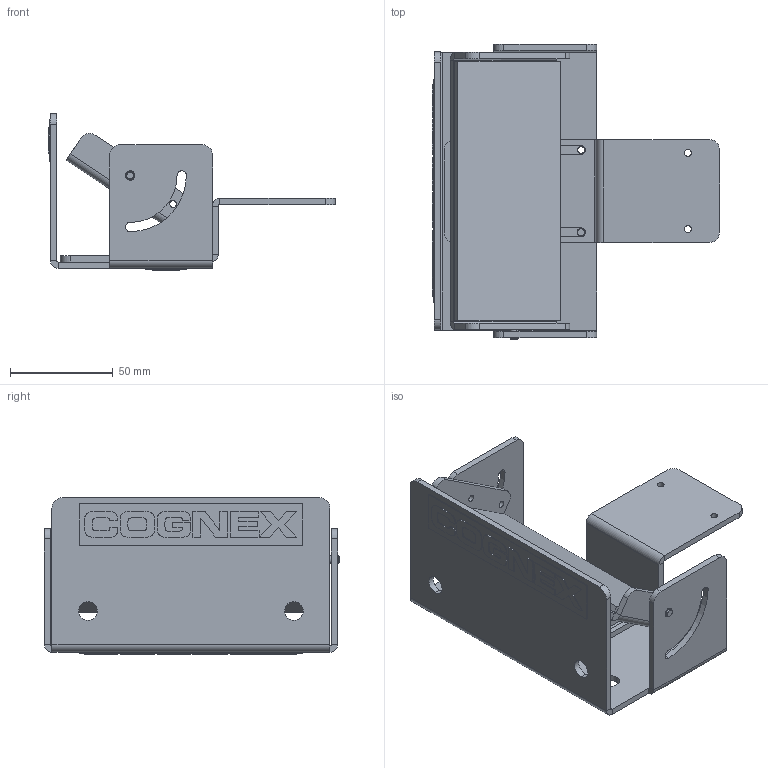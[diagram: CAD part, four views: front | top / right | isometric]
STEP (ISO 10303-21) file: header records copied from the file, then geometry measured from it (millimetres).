
FILE_DESCRIPTION (( 'STEP AP214' ), '1' );
FILE_NAME ('820-10135-1R.STEP', '2025-08-04T18:19:04', ( '' ), ( '' ), 'SwSTEP 2.0', 'SolidWorks 2025', '' );
FILE_SCHEMA (( 'AUTOMOTIVE_DESIGN' ));
Length unit declared in the file: millimetre
Products named in the file (10): 134-10016R; 371-10115R; 134-10017R; 371-10114R; 114-10081R; 195-10034R; 820-10135-1R; 371-10116R
Assembly tree (13 placements, depth 3):
  820-10135-1R
    371-10114R
      371-10114R
      195-10034R  x2
    371-10116R
    371-10115R
      371-10115R
      195-10034R
    134-10016R  x2
    114-10081R
    134-10017R  x2
Bounding box: 139.47 x 143.47 x 76 mm (x, y, z)
Volume: 154922.8 mm3; surface area: 122540.4 mm2
Topology: 11 solids, 11 shells, 392 faces, 1000 edges, 644 vertices
Faces by surface type: plane 250, cylinder 82, bspline 48, cone 12
Entity records: 9968 total; most frequent: CARTESIAN_POINT 3189, ORIENTED_EDGE 1350, DIRECTION 1307, EDGE_CURVE 675, LINE 467, VECTOR 467, VERTEX_POINT 430, AXIS2_PLACEMENT_3D 420
